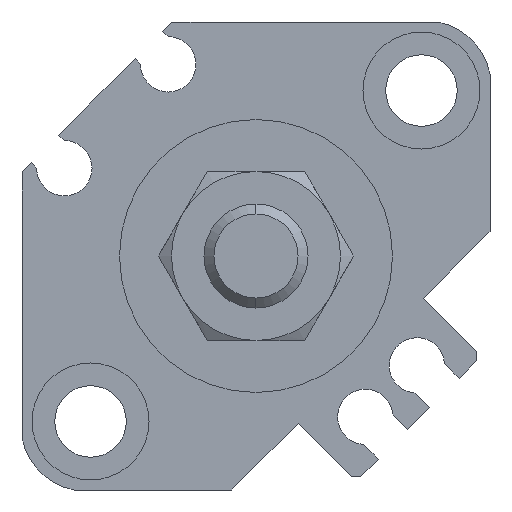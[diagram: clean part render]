
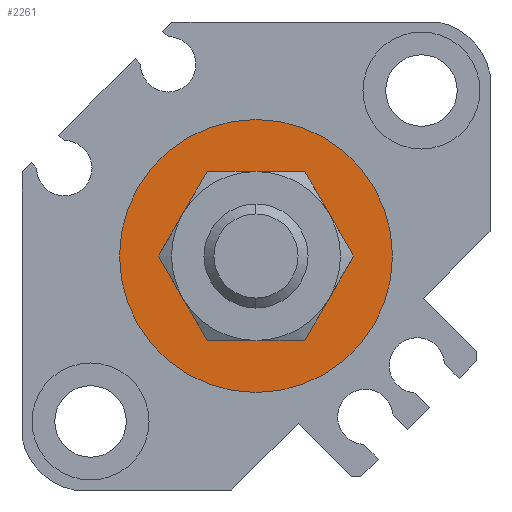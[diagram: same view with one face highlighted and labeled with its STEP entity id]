
A CAD part, left-side view. The second image highlights one B-rep face of the part: STEP entity #2261.
In plain terms, the highlighted planar face has unit normal (-1, 0, 0).
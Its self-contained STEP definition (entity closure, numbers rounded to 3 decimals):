
#86 = DIRECTION ( 'NONE',  ( 1., 0., 0. ) ) ;
#118 = DIRECTION ( 'NONE',  ( 1., 0., 0. ) ) ;
#127 = DIRECTION ( 'NONE',  ( 0., 1., 0. ) ) ;
#144 = CIRCLE ( 'NONE', #4553, 10.5 ) ;
#206 = CARTESIAN_POINT ( 'NONE',  ( 1.6, 0., 0. ) ) ;
#218 = CARTESIAN_POINT ( 'NONE',  ( 1.6, 0., 6.5 ) ) ;
#1111 = CARTESIAN_POINT ( 'NONE',  ( 1.6, 0., -6.5 ) ) ;
#1245 = EDGE_CURVE ( 'NONE', #3865, #4768, #3596, .T. ) ;
#1363 = CIRCLE ( 'NONE', #4129, 6.5 ) ;
#1482 = DIRECTION ( 'NONE',  ( 0., 0., -1. ) ) ;
#1569 = EDGE_CURVE ( 'NONE', #4641, #5284, #5316, .T. ) ;
#1583 = ORIENTED_EDGE ( 'NONE', *, *, #1569, .T. ) ;
#1783 = FACE_OUTER_BOUND ( 'NONE', #1849, .T. ) ;
#1833 = CARTESIAN_POINT ( 'NONE',  ( 1.6, 0., 0. ) ) ;
#1849 = EDGE_LOOP ( 'NONE', ( #2937, #3802 ) ) ;
#1935 = AXIS2_PLACEMENT_3D ( 'NONE', #1833, #118, #3845 ) ;
#1948 = CARTESIAN_POINT ( 'NONE',  ( 1.6, 0., 10.5 ) ) ;
#2041 = DIRECTION ( 'NONE',  ( 0., 0., -1. ) ) ;
#2188 = CARTESIAN_POINT ( 'NONE',  ( 1.6, 0., 0. ) ) ;
#2261 = ADVANCED_FACE ( 'NONE', ( #1783, #3453 ), #5098, .F. ) ;
#2424 = CARTESIAN_POINT ( 'NONE',  ( 1.6, 0., -10.5 ) ) ;
#2777 = EDGE_CURVE ( 'NONE', #4768, #3865, #144, .T. ) ;
#2937 = ORIENTED_EDGE ( 'NONE', *, *, #1245, .F. ) ;
#3002 = CARTESIAN_POINT ( 'NONE',  ( 1.6, 0., 0. ) ) ;
#3103 = ORIENTED_EDGE ( 'NONE', *, *, #5026, .T. ) ;
#3165 = AXIS2_PLACEMENT_3D ( 'NONE', #206, #3192, #3221 ) ;
#3192 = DIRECTION ( 'NONE',  ( 1., 0., 0. ) ) ;
#3221 = DIRECTION ( 'NONE',  ( 0., 0., -1. ) ) ;
#3453 = FACE_BOUND ( 'NONE', #5201, .T. ) ;
#3557 = CARTESIAN_POINT ( 'NONE',  ( 1.6, 0., 0. ) ) ;
#3596 = CIRCLE ( 'NONE', #3165, 10.5 ) ;
#3802 = ORIENTED_EDGE ( 'NONE', *, *, #2777, .F. ) ;
#3845 = DIRECTION ( 'NONE',  ( 0., 0., -1. ) ) ;
#3851 = DIRECTION ( 'NONE',  ( 1., 0., 0. ) ) ;
#3865 = VERTEX_POINT ( 'NONE', #1948 ) ;
#4129 = AXIS2_PLACEMENT_3D ( 'NONE', #3557, #5211, #1482 ) ;
#4553 = AXIS2_PLACEMENT_3D ( 'NONE', #3002, #86, #2041 ) ;
#4641 = VERTEX_POINT ( 'NONE', #1111 ) ;
#4768 = VERTEX_POINT ( 'NONE', #2424 ) ;
#5026 = EDGE_CURVE ( 'NONE', #5284, #4641, #1363, .T. ) ;
#5098 = PLANE ( 'NONE',  #5172 ) ;
#5172 = AXIS2_PLACEMENT_3D ( 'NONE', #2188, #3851, #127 ) ;
#5201 = EDGE_LOOP ( 'NONE', ( #3103, #1583 ) ) ;
#5211 = DIRECTION ( 'NONE',  ( 1., 0., 0. ) ) ;
#5284 = VERTEX_POINT ( 'NONE', #218 ) ;
#5316 = CIRCLE ( 'NONE', #1935, 6.5 ) ;
